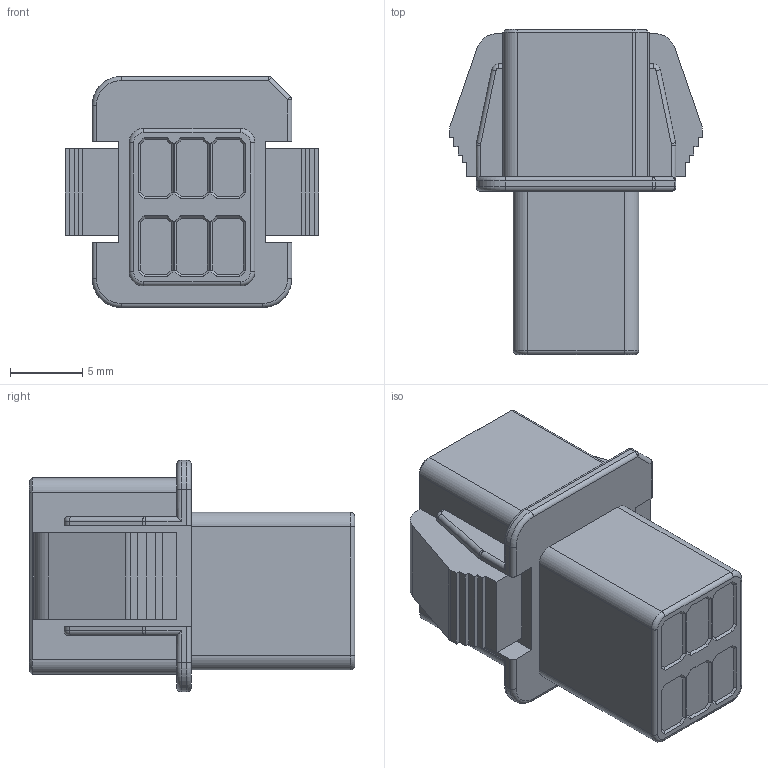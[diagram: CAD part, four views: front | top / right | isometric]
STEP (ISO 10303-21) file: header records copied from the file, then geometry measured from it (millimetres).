
FILE_DESCRIPTION(('Creo Elements/Direct Modeling STEP Export'),'2;1');
FILE_NAME('P3E679_FTCS12-06P.stp','2023-09-06T10:17:36',(''),(''),'Creo Elements/Direct Modeling STEP processor for AP214 (Solid Model)','Creo Elements/Direct Modeling 20.6 25-Mar-2023 (C) Parametric Technology GmbH','');
FILE_SCHEMA(('AUTOMOTIVE_DESIGN { 1 0 10303 214 1 1 1 1 }'));
Length unit declared in the file: millimetre
Products named in the file (2): P3E679_FTCS12-06P
Assembly tree (1 placements, depth 2):
  P3E679_FTCS12-06P
    P3E679_FTCS12-06P
Bounding box: 17.5 x 22.5 x 16 mm (x, y, z)
Volume: 2038.4 mm3; surface area: 1952.9 mm2
Topology: 1 solids, 1 shells, 231 faces, 593 edges, 370 vertices
Faces by surface type: plane 138, cylinder 62, torus 18, cone 9, sphere 4
Entity records: 6931 total; most frequent: DIRECTION 1202, CARTESIAN_POINT 1192, ORIENTED_EDGE 1178, EDGE_CURVE 589, VECTOR 442, LINE 442, AXIS2_PLACEMENT_3D 380, VERTEX_POINT 370
